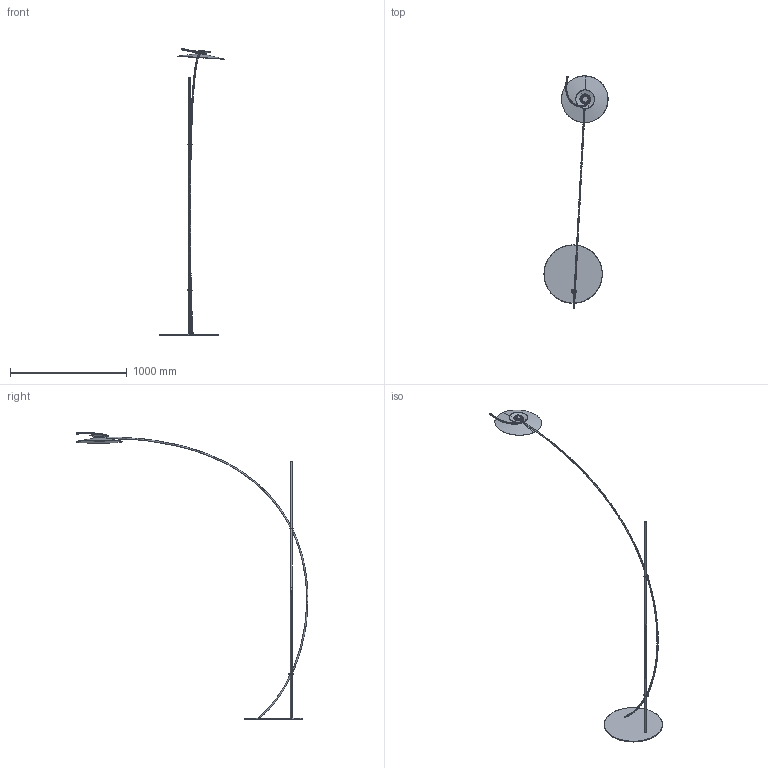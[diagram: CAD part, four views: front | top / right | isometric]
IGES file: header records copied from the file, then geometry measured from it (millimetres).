
Start section: 8718220_Bodenplatte tall..SLDPRT - PrototypeComponentType 8718220_Bodenplatte tall..SLDPRT - PrototypeComponentType 8718222_Standrohr tall..SLDPRT - PrototypeComponentType 8718222_Standrohr tall..SLDPRT - PrototypeComponentType Bogen-Bogen..SLDPRT - PrototypeComponentType Bogen-Bogen..SLDPRT - PrototypeComponentType 8718204_K hlk rper final..SLDPRT - PrototypeComponentType 8718204_K hlk rper final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
Global section: file name: \\serv-dc-01\01_DESIGN\Design_Projekt\Produkte\Ms. Bowjangles\Produktzeichnungen\Ms. Bowjangles Tall\3D-Daten Website\Ms.Bowjangles tall floor.igs; native system: Rhinoceros ( Dec  8 2020 ); preprocessor: Trout Lake IGES 012 Dec  8 2020; date: 241030.155554; units: millimetre
Bounding box: 548.84 x 1986.46 x 2453.11 mm (x, y, z)
Surface area: 1140616.7 mm2 (no closed solid volume)
Topology: 0 solids, 0 shells, 875 faces, 5766 edges, 5731 vertices
Faces by surface type: bspline 875
